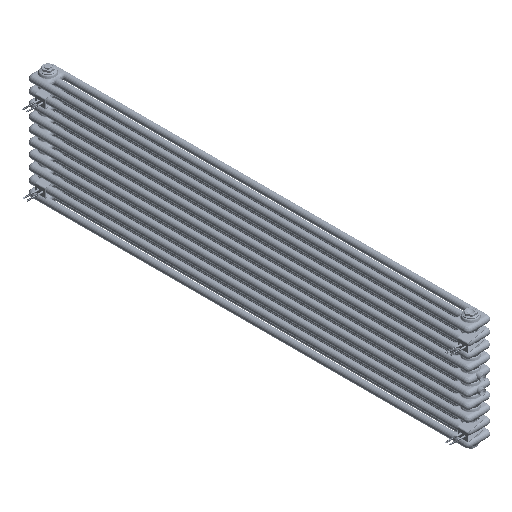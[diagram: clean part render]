
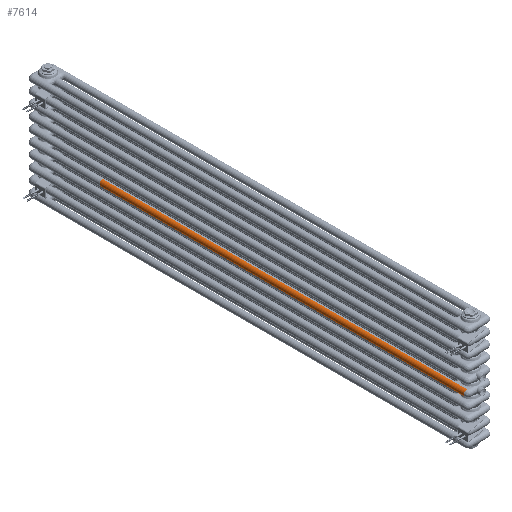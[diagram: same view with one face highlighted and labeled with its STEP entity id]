
A CAD part, isometric view. The second image highlights one B-rep face of the part: STEP entity #7614.
In plain terms, the highlighted cylindrical face has radius 12.5 mm (diameter 25 mm), a partial arc.
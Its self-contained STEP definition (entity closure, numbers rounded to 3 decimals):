
#7614=ADVANCED_FACE('',(#12926),#11516,.T.);
#11516=CYLINDRICAL_SURFACE('',#66297,12.5);
#12926=FACE_OUTER_BOUND('',#17101,.T.);
#17101=EDGE_LOOP('',(#28001,#28002,#28003,#28004,#28005,#28006));
#21331=LINE('',#103344,#23882);
#21332=LINE('',#103367,#23883);
#21333=LINE('',#103372,#23884);
#21334=LINE('',#103373,#23885);
#23882=VECTOR('',#73578,1.);
#23883=VECTOR('',#73587,1.);
#23884=VECTOR('',#73592,1.);
#23885=VECTOR('',#73593,1.);
#28001=ORIENTED_EDGE('',*,*,#53071,.F.);
#28002=ORIENTED_EDGE('',*,*,#53055,.T.);
#28003=ORIENTED_EDGE('',*,*,#53052,.T.);
#28004=ORIENTED_EDGE('',*,*,#53050,.T.);
#28005=ORIENTED_EDGE('',*,*,#53048,.T.);
#28006=ORIENTED_EDGE('',*,*,#53054,.T.);
#46745=VERTEX_POINT('',#102617);
#46746=VERTEX_POINT('',#102622);
#46754=VERTEX_POINT('',#103345);
#46755=VERTEX_POINT('',#103349);
#46756=VERTEX_POINT('',#103370);
#46757=VERTEX_POINT('',#103371);
#53048=EDGE_CURVE('',#46754,#46746,#21331,.T.);
#53050=EDGE_CURVE('',#46755,#46754,#62412,.T.);
#53052=EDGE_CURVE('',#46745,#46755,#21332,.T.);
#53054=EDGE_CURVE('',#46746,#46756,#21333,.T.);
#53055=EDGE_CURVE('',#46757,#46745,#21334,.T.);
#53071=EDGE_CURVE('',#46757,#46756,#62425,.T.);
#62412=CIRCLE('',#66274,12.5);
#62425=CIRCLE('',#66296,12.5);
#66274=AXIS2_PLACEMENT_3D('',#103348,#73583,#73584);
#66296=AXIS2_PLACEMENT_3D('',#103405,#73635,#73636);
#66297=AXIS2_PLACEMENT_3D('',#103406,#73637,#73638);
#73578=DIRECTION('',(0.,1.,0.));
#73583=DIRECTION('',(0.,1.,0.));
#73584=DIRECTION('',(0.,0.,-1.));
#73587=DIRECTION('',(0.,-1.,0.));
#73592=DIRECTION('',(0.,1.,0.));
#73593=DIRECTION('',(0.,-1.,0.));
#73635=DIRECTION('',(0.,1.,0.));
#73636=DIRECTION('',(1.,0.,0.));
#73637=DIRECTION('',(0.,1.,0.));
#73638=DIRECTION('',(0.,0.,1.));
#102617=CARTESIAN_POINT('',(12.5,78.,1385.));
#102622=CARTESIAN_POINT('',(12.5,78.,1410.));
#103344=CARTESIAN_POINT('',(12.5,15.5,1410.));
#103345=CARTESIAN_POINT('',(12.5,15.5,1410.));
#103348=CARTESIAN_POINT('',(12.5,15.5,1397.5));
#103349=CARTESIAN_POINT('',(12.5,15.5,1385.));
#103367=CARTESIAN_POINT('',(12.5,78.,1385.));
#103370=CARTESIAN_POINT('',(12.5,1501.5,1410.));
#103371=CARTESIAN_POINT('',(12.5,1501.5,1385.));
#103372=CARTESIAN_POINT('',(12.5,78.,1410.));
#103373=CARTESIAN_POINT('',(12.5,522.,1385.));
#103405=CARTESIAN_POINT('',(12.5,1501.5,1397.5));
#103406=CARTESIAN_POINT('',(12.5,15.5,1397.5));
